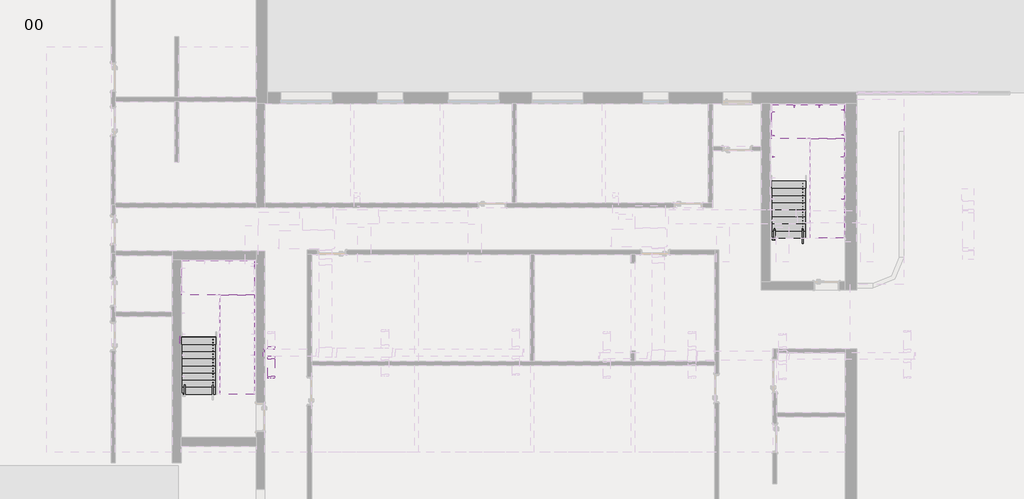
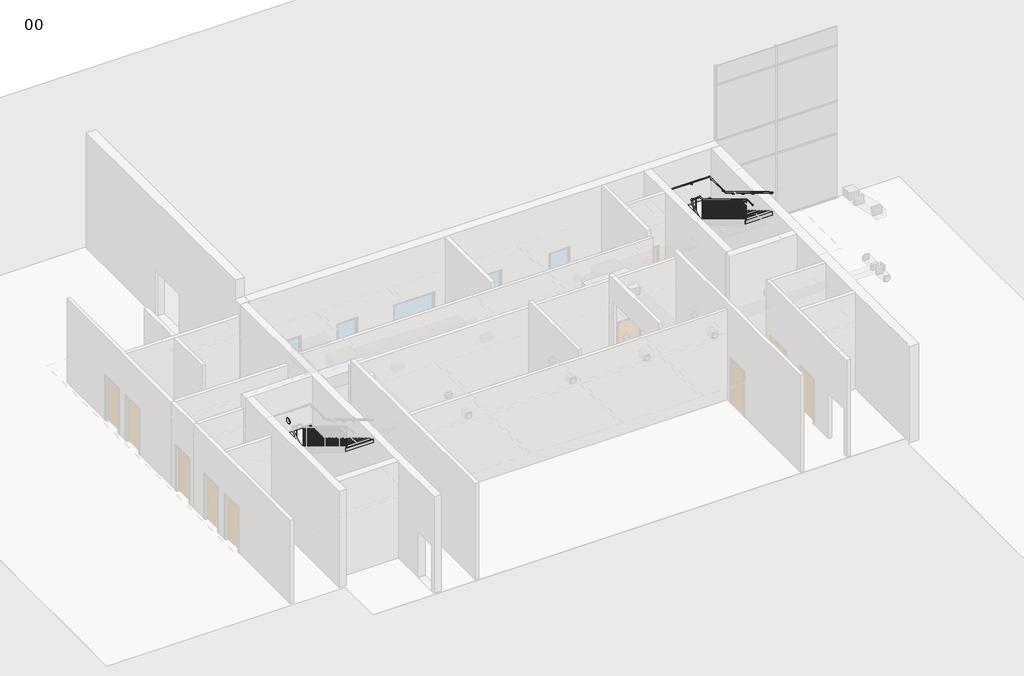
# One storey, part 10 of 12: 10 proxies, 5 duct fittings, 4 stair flights, 2 railings, 2 slabs, 1 duct segment.
"""IFC4 building model written with IfcOpenShell, lengths in millimetres."""

from ifc_helpers import new_model, si_unit, frame, origin, place, context, project, spatial, polyline, circle_curve, ellipse_curve, outline, extrude, transform, mapped, element, save
from ifc_brep_helpers import plane_surface, cylinder_surface, advanced_brep
from components import support_circular_support_bend_943144f1, m_rectangular_duct_endcap_standard_ffc747e0, m_rectangular_duct_takeoff_standard_e76cbc94, m_rectangular_duct_takeoff_standard_1d6a8af3, m_rectangular_to_round_duct_transition_angle_45_degree_26f3b062, m_round_duct_transition_angle_45_degree_5235cf4d, slab_b5527e81, slab_eed05af2, stair_flight_633f8e3b, stair_flight_4ffd47d7, stair_flight_bc6c97eb, stair_flight_164fe082

model = new_model("IFC4")

# Units and contexts
model_context = context("Model", 3, world=origin())
ifc_project = project(units=[si_unit("LENGTHUNIT", "METRE", prefix="MILLI")], contexts=[model_context])

# Site, building, storey
site = spatial("IfcSite", under=ifc_project)
building = spatial("IfcBuilding", under=site)
storey = spatial("IfcBuildingStorey", under=building, Name="00", Elevation=0.0)

# Proxies
placement = place(None, origin())
support_circular_support_bend_shape = support_circular_support_bend_943144f1(model_context)
element("IfcBuildingElementProxy", 1, Name="Support_ Circular : Support_Bend", ObjectType="Support_ Circular : Support_Bend", at=placement, inside=storey, context=model_context, shape_type="MappedRepresentation", body=[
    mapped(support_circular_support_bend_shape, transform((443252.7206883, -383415.7141444, 2725.5730965), x_axis=(0.0, 1.0, 0.0), y_axis=(-1.0, 0.0, 0.0), z_axis=(0.0, 0.0, 1.0))),
])
element("IfcBuildingElementProxy", 2, Name="Support_ Circular : Support_Bend", ObjectType="Support_ Circular : Support_Bend", at=placement, inside=storey, context=model_context, shape_type="MappedRepresentation", body=[
    mapped(support_circular_support_bend_shape, transform((443252.7206883, -382670.8797684, 3172.4737221), x_axis=(0.0, 1.0, 0.0), y_axis=(-1.0, 0.0, 0.0), z_axis=(0.0, 0.0, 1.0))),
])
element("IfcBuildingElementProxy", 3, Name="Support_ Circular : Support_Bend", ObjectType="Support_ Circular : Support_Bend", at=placement, inside=storey, context=model_context, shape_type="MappedRepresentation", body=[
    mapped(support_circular_support_bend_shape, transform((443252.7206883, -381840.353659, 3310.0), x_axis=(0.0, 1.0, 0.0), y_axis=(-1.0, 0.0, 0.0), z_axis=(0.0, 0.0, 1.0))),
])
element("IfcBuildingElementProxy", 4, Name="Support_ Circular : Support_Bend", ObjectType="Support_ Circular : Support_Bend", at=placement, inside=storey, context=model_context, shape_type="MappedRepresentation", body=[
    mapped(support_circular_support_bend_shape, transform((443961.3883511, -381680.4026386, 3310.0), x_axis=(1.0, 0.0, 0.0), y_axis=(0.0, 1.0, 0.0), z_axis=(0.0, 0.0, 1.0))),
])
element("IfcBuildingElementProxy", 5, Name="Support_ Circular : Support_Bend", ObjectType="Support_ Circular : Support_Bend", at=placement, inside=storey, context=model_context, shape_type="MappedRepresentation", body=[
    mapped(support_circular_support_bend_shape, transform((444830.0070343, -381680.4026386, 3310.0), x_axis=(1.0, 0.0, 0.0), y_axis=(0.0, 1.0, 0.0), z_axis=(0.0, 0.0, 1.0))),
])
element("IfcBuildingElementProxy", 6, Name="Support_ Circular : Support_Bend", ObjectType="Support_ Circular : Support_Bend", at=placement, inside=storey, context=model_context, shape_type="MappedRepresentation", body=[
    mapped(support_circular_support_bend_shape, transform((445607.9206883, -381771.1076677, 3310.0), x_axis=(0.0, -1.0, 0.0), y_axis=(1.0, 0.0, 0.0), z_axis=(0.0, 0.0, 1.0))),
])
element("IfcBuildingElementProxy", 7, Name="Support_ Circular : Support_Bend", ObjectType="Support_ Circular : Support_Bend", at=placement, inside=storey, context=model_context, shape_type="MappedRepresentation", body=[
    mapped(support_circular_support_bend_shape, transform((445607.9206883, -382639.7263509, 3310.0), x_axis=(0.0, -1.0, 0.0), y_axis=(1.0, 0.0, 0.0), z_axis=(0.0, 0.0, 1.0))),
])
element("IfcBuildingElementProxy", 8, Name="Support_ Circular : Support_Bend", ObjectType="Support_ Circular : Support_Bend", at=placement, inside=storey, context=model_context, shape_type="MappedRepresentation", body=[
    mapped(support_circular_support_bend_shape, transform((445607.9206883, -383415.7141444, 3644.4269035), x_axis=(0.0, -1.0, 0.0), y_axis=(1.0, 0.0, 0.0), z_axis=(0.0, 0.0, 1.0))),
])
element("IfcBuildingElementProxy", 9, Name="Support_ Circular : Support_Bend", ObjectType="Support_ Circular : Support_Bend", at=placement, inside=storey, context=model_context, shape_type="MappedRepresentation", body=[
    mapped(support_circular_support_bend_shape, transform((445607.9206883, -384160.5485203, 4091.327529), x_axis=(0.0, -1.0, 0.0), y_axis=(1.0, 0.0, 0.0), z_axis=(0.0, 0.0, 1.0))),
])
element("IfcBuildingElementProxy", 10, Name="Support_ Circular : Support_Bend", ObjectType="Support_ Circular : Support_Bend", at=placement, inside=storey, context=model_context, shape_type="MappedRepresentation", body=[
    mapped(support_circular_support_bend_shape, transform((445607.9206883, -384905.3828963, 4538.2281546), x_axis=(0.0, -1.0, 0.0), y_axis=(1.0, 0.0, 0.0), z_axis=(0.0, 0.0, 1.0))),
])

# Duct fittings
m_rectangular_duct_endcap_standard_shape = m_rectangular_duct_endcap_standard_ffc747e0(model_context)
element("IfcDuctFitting", 11, ObjectType="M_Rectangular Duct Endcap : Standard", at=placement, inside=storey, context=model_context, shape_type="MappedRepresentation", body=[
    mapped(m_rectangular_duct_endcap_standard_shape, transform((425299.0152402, -390313.0198881, 3547.5296249), x_axis=(-1.0, 0.0, 0.0), y_axis=(0.0, -1.0, 0.0), z_axis=(0.0, 0.0, 1.0))),
])
m_rectangular_duct_takeoff_standard_shape = m_rectangular_duct_takeoff_standard_e76cbc94(model_context)
element("IfcDuctFitting", 12, ObjectType="M_Rectangular Duct Takeoff : Standard", at=placement, inside=storey, context=model_context, shape_type="MappedRepresentation", body=[
    mapped(m_rectangular_duct_takeoff_standard_shape, transform((425549.0152402, -390188.0198881, 3672.5296249), x_axis=(0.0, 1.0, 0.0), y_axis=(1.0, 0.0, 0.0), z_axis=(0.0, 0.0, -1.0))),
])
m_rectangular_duct_takeoff_standard_2_shape = m_rectangular_duct_takeoff_standard_1d6a8af3(model_context)
element("IfcDuctFitting", 13, ObjectType="M_Rectangular Duct Takeoff : Standard", at=placement, inside=storey, context=model_context, shape_type="MappedRepresentation", body=[
    mapped(m_rectangular_duct_takeoff_standard_2_shape, transform((425549.0152402, -390438.0198881, 3672.5296249), x_axis=(0.0, -1.0, 0.0), y_axis=(-1.0, 0.0, 0.0), z_axis=(0.0, 0.0, -1.0))),
])
m_rectangular_to_round_duct_transition_angle_45_degree_shape = m_rectangular_to_round_duct_transition_angle_45_degree_26f3b062(model_context)
element("IfcDuctFitting", 14, ObjectType="M_Rectangular to Round Duct Transition - Angle : 45 Degree", at=placement, inside=storey, context=model_context, shape_type="MappedRepresentation", body=[
    mapped(m_rectangular_to_round_duct_transition_angle_45_degree_shape, transform((425549.0152402, -391151.0575595, 3672.5296249), x_axis=(0.0, -1.0, 0.0), y_axis=(-1.0, 0.0, 0.0), z_axis=(0.0, 0.0, -1.0))),
])
m_round_duct_transition_angle_45_degree_shape = m_round_duct_transition_angle_45_degree_5235cf4d(model_context)
element("IfcDuctFitting", 15, ObjectType="M_Round Duct Transition - Angle : 45 Degree", at=placement, inside=storey, context=model_context, shape_type="MappedRepresentation", body=[
    mapped(m_round_duct_transition_angle_45_degree_shape, transform((422321.0230373, -389857.6171549, 5063.0), x_axis=(1.0, 0.0, 0.0), y_axis=(0.0, 1.0, 0.0), z_axis=(0.0, 0.0, 1.0))),
])

# Duct segment
element("IfcDuctSegment", 16, ObjectType="Mitered Elbows / Taps", at=placement, inside=storey, context=model_context, shape_type="SweptSolid", body=[
    extrude(outline(polyline([(425674.0152402, -391151.0575595), (425424.0152402, -391151.0575595), (425424.0152402, -390539.6198881), (425674.0152402, -390539.6198881), (425674.0152402, -391151.0575595)])), frame((0.0, 0.0, 3547.5296249), z_axis=(0.0, 0.0, 1.0), x_axis=(1.0, 0.0, 0.0)), (0.0, 0.0, 1.0), 250.0),
])

# Railings
element("IfcRailing", 17, ObjectType="Concept_900-1100mm_RailStop_Baluster", at=placement, inside=storey, context=model_context, shape_type="SolidModel", body=[
    advanced_brep(
    [(444261.9206883, -386470.0026386, 1030.0), (444221.9206883, -386470.0026386, 1030.0), (444261.9206883, -386269.4629593, 1030.0), (444221.9206883, -386269.4629593, 1030.0), (444261.9206883, -382729.6026386, 3153.9161924), (444221.9206883, -382729.6026386, 3153.9161924), (444261.9206883, -382729.6026386, 3330.0), (444221.9206883, -382729.6026386, 3330.0), (444261.9206883, -382689.6026386, 3330.0), (444221.9206883, -382649.6026386, 3330.0), (444321.9206883, -382689.6026386, 3330.0), (444321.9206883, -382649.6026386, 3330.0), (444598.7206883, -382689.6026386, 3330.0), (444638.7206883, -382649.6026386, 3330.0), (444598.7206883, -382863.8756512, 3330.0), (444638.7206883, -382863.8756512, 3330.0), (444598.7206883, -386280.5423179, 5380.0), (444638.7206883, -386280.5423179, 5380.0), (444598.7206883, -386670.0026386, 5380.0), (444638.7206883, -386670.0026386, 5380.0)],
    [
        (0, 1, circle_curve(frame((444241.9206883, -386470.0026386, 1030.0), z_axis=(0.0, -1.0, 0.0), x_axis=(-1.0, 0.0, 0.0)), 20.0)),
        (1, 0, circle_curve(frame((444241.9206883, -386470.0026386, 1030.0), z_axis=(0.0, -1.0, 0.0), x_axis=(-1.0, 0.0, 0.0)), 20.0)),
        (0, 2),
        (2, 3, ellipse_curve(frame((444241.9206883, -386269.4629593, 1030.0), z_axis=(0.0, -0.9637149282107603, -0.26693358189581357), x_axis=(0.0, -0.26693358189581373, 0.9637149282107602)), 20.753025, 20.0)),
        (3, 1),
        (3, 2, ellipse_curve(frame((444241.9206883, -386269.4629593, 1030.0), z_axis=(0.0, -0.9637149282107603, -0.26693358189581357), x_axis=(0.0, -0.26693358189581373, 0.9637149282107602)), 20.753025, 20.0)),
        (2, 4),
        (4, 5, ellipse_curve(frame((444241.9206883, -382729.6026386, 3153.9161924), z_axis=(0.0, -0.49269881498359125, -0.8701999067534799), x_axis=(0.0, -0.8701999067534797, 0.4926988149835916)), 22.9832247, 20.0)),
        (5, 3),
        (5, 4, ellipse_curve(frame((444241.9206883, -382729.6026386, 3153.9161924), z_axis=(0.0, -0.49269881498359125, -0.8701999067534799), x_axis=(0.0, -0.8701999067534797, 0.4926988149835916)), 22.9832247, 20.0)),
        (4, 6),
        (6, 7, ellipse_curve(frame((444241.9206883, -382729.6026386, 3330.0), z_axis=(0.0, -0.7071067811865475, -0.7071067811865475), x_axis=(0.0, 0.7071067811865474, -0.7071067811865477)), 28.2842712, 20.0)),
        (7, 5),
        (7, 6, ellipse_curve(frame((444241.9206883, -382729.6026386, 3330.0), z_axis=(0.0, -0.7071067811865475, -0.7071067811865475), x_axis=(0.0, 0.7071067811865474, -0.7071067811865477)), 28.2842712, 20.0)),
        (6, 8),
        (8, 9, ellipse_curve(frame((444241.9206883, -382669.6026386, 3330.0), z_axis=(-0.7071067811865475, -0.7071067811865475, 0.0), x_axis=(0.7071067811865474, -0.7071067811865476, 0.0)), 28.2842712, 20.0)),
        (9, 7),
        (9, 8, ellipse_curve(frame((444241.9206883, -382669.6026386, 3330.0), z_axis=(-0.7071067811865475, -0.7071067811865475, 0.0), x_axis=(0.7071067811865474, -0.7071067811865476, 0.0)), 28.2842712, 20.0)),
        (8, 10),
        (10, 11, circle_curve(frame((444321.9206883, -382669.6026386, 3330.0), z_axis=(-1.0, 0.0, 0.0), x_axis=(0.0, 1.0, 0.0)), 20.0)),
        (11, 9),
        (11, 10, circle_curve(frame((444321.9206883, -382669.6026386, 3330.0), z_axis=(-1.0, 0.0, 0.0), x_axis=(0.0, 1.0, 0.0)), 20.0)),
        (10, 12),
        (12, 13, ellipse_curve(frame((444618.7206883, -382669.6026386, 3330.0), z_axis=(-0.7071067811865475, 0.7071067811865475, 0.0), x_axis=(-0.7071067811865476, -0.7071067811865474, 0.0)), 28.2842712, 20.0)),
        (13, 11),
        (13, 12, ellipse_curve(frame((444618.7206883, -382669.6026386, 3330.0), z_axis=(-0.7071067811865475, 0.7071067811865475, 0.0), x_axis=(-0.7071067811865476, -0.7071067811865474, 0.0)), 28.2842712, 20.0)),
        (12, 14),
        (14, 15, ellipse_curve(frame((444618.7206883, -382863.8756512, 3330.0), z_axis=(0.0, 0.9637149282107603, -0.2669335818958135), x_axis=(0.0, 0.26693358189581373, 0.9637149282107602)), 20.753025, 20.0)),
        (15, 13),
        (15, 14, ellipse_curve(frame((444618.7206883, -382863.8756512, 3330.0), z_axis=(0.0, 0.9637149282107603, -0.2669335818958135), x_axis=(0.0, 0.26693358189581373, 0.9637149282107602)), 20.753025, 20.0)),
        (14, 16),
        (16, 17, ellipse_curve(frame((444618.7206883, -386280.5423179, 5380.0), z_axis=(0.0, 0.9637149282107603, -0.2669335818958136), x_axis=(0.0, -0.26693358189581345, -0.9637149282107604)), 20.753025, 20.0)),
        (17, 15),
        (17, 16, ellipse_curve(frame((444618.7206883, -386280.5423179, 5380.0), z_axis=(0.0, 0.9637149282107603, -0.2669335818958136), x_axis=(0.0, -0.26693358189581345, -0.9637149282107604)), 20.753025, 20.0)),
        (18, 19, circle_curve(frame((444618.7206883, -386670.0026386, 5380.0), z_axis=(0.0, -1.0, 0.0), x_axis=(1.0, 0.0, 0.0)), 20.0)),
        (19, 18, circle_curve(frame((444618.7206883, -386670.0026386, 5380.0), z_axis=(0.0, -1.0, 0.0), x_axis=(1.0, 0.0, 0.0)), 20.0)),
        (16, 18),
        (19, 17),
    ],
    [
        plane_surface(frame((444241.9206883, -386470.0026386, 1050.0), z_axis=(0.0, -1.0, 0.0), x_axis=(0.0, 0.0, 1.0))),
        cylinder_surface(frame((444241.9206883, -386470.0026386, 1030.0), z_axis=(0.0, -1.0, 0.0), x_axis=(-1.0, 0.0, 0.0)), 20.0),
        cylinder_surface(frame((444241.9206883, -386264.7127235, 1032.8501415), z_axis=(0.0, -0.857492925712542, -0.5144957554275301), x_axis=(-1.0, 0.0, 0.0)), 20.0),
        cylinder_surface(frame((444241.9206883, -382729.6026386, 3165.24), z_axis=(0.0, 0.0, -1.0), x_axis=(-1.0, 0.0, 0.0)), 20.0),
        cylinder_surface(frame((444241.9206883, -382749.6026386, 3330.0), z_axis=(0.0, -1.0, 0.0), x_axis=(-1.0, 0.0, 0.0)), 20.0),
        cylinder_surface(frame((444241.9206883, -382669.6026386, 3330.0), z_axis=(-1.0, 0.0, 0.0), x_axis=(0.0, 1.0, 0.0)), 20.0),
        cylinder_surface(frame((444321.9206883, -382669.6026386, 3330.0), z_axis=(-1.0, 0.0, 0.0), x_axis=(0.0, 1.0, 0.0)), 20.0),
        cylinder_surface(frame((444618.7206883, -382669.6026386, 3330.0), z_axis=(0.0, 1.0, 0.0), x_axis=(1.0, 0.0, 0.0)), 20.0),
        cylinder_surface(frame((444618.7206883, -382868.6258871, 3332.8501415), z_axis=(0.0, 0.857492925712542, -0.5144957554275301), x_axis=(1.0, 0.0, 0.0)), 20.0),
        plane_surface(frame((444618.7206883, -386670.0026386, 5400.0), z_axis=(0.0, -1.0, 0.0), x_axis=(0.0, 0.0, -1.0))),
        cylinder_surface(frame((444618.7206883, -386275.0026386, 5380.0), z_axis=(0.0, 1.0, 0.0), x_axis=(1.0, 0.0, 0.0)), 20.0),
    ],
    [
        (0, [[1, 2]]),
        (1, [[-1, 3, 4, 5]]),
        (1, [[-2, -5, 6, -3]]),
        (2, [[-4, 7, 8, 9]]),
        (2, [[-6, -9, 10, -7]]),
        (3, [[-8, 11, 12, 13]]),
        (3, [[-10, -13, 14, -11]]),
        (4, [[-12, 15, 16, 17]]),
        (4, [[-14, -17, 18, -15]]),
        (5, [[-16, 19, 20, 21]]),
        (5, [[-18, -21, 22, -19]]),
        (6, [[-20, 23, 24, 25]]),
        (6, [[-22, -25, 26, -23]]),
        (7, [[-24, 27, 28, 29]]),
        (7, [[-26, -29, 30, -27]]),
        (8, [[-28, 31, 32, 33]]),
        (8, [[-30, -33, 34, -31]]),
        (9, [[35, 36]]),
        (10, [[-32, 37, -36, 38]]),
        (10, [[-34, -38, -35, -37]]),
    ],
),
    extrude(outline(polyline([(-386169.2769243, 5289.9169563), (-386169.2769243, 4350.0), (-386179.2769243, 4350.0), (-386179.2769243, 5295.9169563), (-386169.2769243, 5289.9169563)])), frame((444613.7206883, 0.0, 0.0), z_axis=(1.0, 0.0, 0.0), x_axis=(0.0, 1.0, 0.0)), (0.0, 0.0, 1.0), 10.0),
    extrude(outline(polyline([(-386068.55121, 5229.4815277), (-386068.55121, 4350.0), (-386078.55121, 4350.0), (-386078.55121, 5235.4815277), (-386068.55121, 5229.4815277)])), frame((444613.7206883, 0.0, 0.0), z_axis=(1.0, 0.0, 0.0), x_axis=(0.0, 1.0, 0.0)), (0.0, 0.0, 1.0), 10.0),
    extrude(outline(polyline([(-385967.8254958, 5169.0460991), (-385967.8254958, 4200.0), (-385977.8254958, 4200.0), (-385977.8254958, 5175.0460991), (-385967.8254958, 5169.0460991)])), frame((444613.7206883, 0.0, 0.0), z_axis=(1.0, 0.0, 0.0), x_axis=(0.0, 1.0, 0.0)), (0.0, 0.0, 1.0), 10.0),
    extrude(outline(polyline([(-385867.0997815, 5108.6106706), (-385867.0997815, 4200.0), (-385877.0997815, 4200.0), (-385877.0997815, 5114.6106706), (-385867.0997815, 5108.6106706)])), frame((444613.7206883, 0.0, 0.0), z_axis=(1.0, 0.0, 0.0), x_axis=(0.0, 1.0, 0.0)), (0.0, 0.0, 1.0), 10.0),
    extrude(outline(polyline([(-385766.3740672, 5048.175242), (-385766.3740672, 4050.0), (-385776.3740672, 4050.0), (-385776.3740672, 5054.175242), (-385766.3740672, 5048.175242)])), frame((444613.7206883, 0.0, 0.0), z_axis=(1.0, 0.0, 0.0), x_axis=(0.0, 1.0, 0.0)), (0.0, 0.0, 1.0), 10.0),
    extrude(outline(polyline([(-385665.6483529, 4987.7398134), (-385665.6483529, 4050.0), (-385675.6483529, 4050.0), (-385675.6483529, 4993.7398134), (-385665.6483529, 4987.7398134)])), frame((444613.7206883, 0.0, 0.0), z_axis=(1.0, 0.0, 0.0), x_axis=(0.0, 1.0, 0.0)), (0.0, 0.0, 1.0), 10.0),
    extrude(outline(polyline([(-385564.9226386, 4927.3043848), (-385564.9226386, 4050.0), (-385574.9226386, 4050.0), (-385574.9226386, 4933.3043848), (-385564.9226386, 4927.3043848)])), frame((444613.7206883, 0.0, 0.0), z_axis=(1.0, 0.0, 0.0), x_axis=(0.0, 1.0, 0.0)), (0.0, 0.0, 1.0), 10.0),
    extrude(outline(polyline([(-385464.1969243, 4866.8689563), (-385464.1969243, 3900.0), (-385474.1969243, 3900.0), (-385474.1969243, 4872.8689563), (-385464.1969243, 4866.8689563)])), frame((444613.7206883, 0.0, 0.0), z_axis=(1.0, 0.0, 0.0), x_axis=(0.0, 1.0, 0.0)), (0.0, 0.0, 1.0), 10.0),
    extrude(outline(polyline([(-385363.47121, 4806.4335277), (-385363.47121, 3900.0), (-385373.47121, 3900.0), (-385373.47121, 4812.4335277), (-385363.47121, 4806.4335277)])), frame((444613.7206883, 0.0, 0.0), z_axis=(1.0, 0.0, 0.0), x_axis=(0.0, 1.0, 0.0)), (0.0, 0.0, 1.0), 10.0),
    extrude(outline(polyline([(-385262.7454958, 4745.9980991), (-385262.7454958, 3750.0), (-385272.7454958, 3750.0), (-385272.7454958, 4751.9980991), (-385262.7454958, 4745.9980991)])), frame((444613.7206883, 0.0, 0.0), z_axis=(1.0, 0.0, 0.0), x_axis=(0.0, 1.0, 0.0)), (0.0, 0.0, 1.0), 10.0),
    extrude(outline(polyline([(-385162.0197815, 4685.5626706), (-385162.0197815, 3750.0), (-385172.0197815, 3750.0), (-385172.0197815, 4691.5626706), (-385162.0197815, 4685.5626706)])), frame((444613.7206883, 0.0, 0.0), z_axis=(1.0, 0.0, 0.0), x_axis=(0.0, 1.0, 0.0)), (0.0, 0.0, 1.0), 10.0),
    extrude(outline(polyline([(-385061.2940672, 4625.127242), (-385061.2940672, 3750.0), (-385071.2940672, 3750.0), (-385071.2940672, 4631.127242), (-385061.2940672, 4625.127242)])), frame((444613.7206883, 0.0, 0.0), z_axis=(1.0, 0.0, 0.0), x_axis=(0.0, 1.0, 0.0)), (0.0, 0.0, 1.0), 10.0),
    extrude(outline(polyline([(-384960.5683529, 4564.6918134), (-384960.5683529, 3600.0), (-384970.5683529, 3600.0), (-384970.5683529, 4570.6918134), (-384960.5683529, 4564.6918134)])), frame((444613.7206883, 0.0, 0.0), z_axis=(1.0, 0.0, 0.0), x_axis=(0.0, 1.0, 0.0)), (0.0, 0.0, 1.0), 10.0),
    extrude(outline(polyline([(-384859.8426386, 4504.2563848), (-384859.8426386, 3600.0), (-384869.8426386, 3600.0), (-384869.8426386, 4510.2563848), (-384859.8426386, 4504.2563848)])), frame((444613.7206883, 0.0, 0.0), z_axis=(1.0, 0.0, 0.0), x_axis=(0.0, 1.0, 0.0)), (0.0, 0.0, 1.0), 10.0),
    extrude(outline(polyline([(-384759.1169243, 4443.8209563), (-384759.1169243, 3450.0), (-384769.1169243, 3450.0), (-384769.1169243, 4449.8209563), (-384759.1169243, 4443.8209563)])), frame((444613.7206883, 0.0, 0.0), z_axis=(1.0, 0.0, 0.0), x_axis=(0.0, 1.0, 0.0)), (0.0, 0.0, 1.0), 10.0),
    extrude(outline(polyline([(-384658.39121, 4383.3855277), (-384658.39121, 3450.0), (-384668.39121, 3450.0), (-384668.39121, 4389.3855277), (-384658.39121, 4383.3855277)])), frame((444613.7206883, 0.0, 0.0), z_axis=(1.0, 0.0, 0.0), x_axis=(0.0, 1.0, 0.0)), (0.0, 0.0, 1.0), 10.0),
    extrude(outline(polyline([(-384557.6654958, 4322.9500991), (-384557.6654958, 3450.0), (-384567.6654958, 3450.0), (-384567.6654958, 4328.9500991), (-384557.6654958, 4322.9500991)])), frame((444613.7206883, 0.0, 0.0), z_axis=(1.0, 0.0, 0.0), x_axis=(0.0, 1.0, 0.0)), (0.0, 0.0, 1.0), 10.0),
    extrude(outline(polyline([(-384456.9397815, 4262.5146706), (-384456.9397815, 3300.0), (-384466.9397815, 3300.0), (-384466.9397815, 4268.5146706), (-384456.9397815, 4262.5146706)])), frame((444613.7206883, 0.0, 0.0), z_axis=(1.0, 0.0, 0.0), x_axis=(0.0, 1.0, 0.0)), (0.0, 0.0, 1.0), 10.0),
    extrude(outline(polyline([(-384356.2140672, 4202.079242), (-384356.2140672, 3300.0), (-384366.2140672, 3300.0), (-384366.2140672, 4208.079242), (-384356.2140672, 4202.079242)])), frame((444613.7206883, 0.0, 0.0), z_axis=(1.0, 0.0, 0.0), x_axis=(0.0, 1.0, 0.0)), (0.0, 0.0, 1.0), 10.0),
    extrude(outline(polyline([(-384255.4883529, 4141.6438134), (-384255.4883529, 3150.0), (-384265.4883529, 3150.0), (-384265.4883529, 4147.6438134), (-384255.4883529, 4141.6438134)])), frame((444613.7206883, 0.0, 0.0), z_axis=(1.0, 0.0, 0.0), x_axis=(0.0, 1.0, 0.0)), (0.0, 0.0, 1.0), 10.0),
    extrude(outline(polyline([(-384154.7626386, 4081.2083848), (-384154.7626386, 3150.0), (-384164.7626386, 3150.0), (-384164.7626386, 4087.2083848), (-384154.7626386, 4081.2083848)])), frame((444613.7206883, 0.0, 0.0), z_axis=(1.0, 0.0, 0.0), x_axis=(0.0, 1.0, 0.0)), (0.0, 0.0, 1.0), 10.0),
    extrude(outline(polyline([(-384054.0369243, 4020.7729563), (-384054.0369243, 3150.0), (-384064.0369243, 3150.0), (-384064.0369243, 4026.7729563), (-384054.0369243, 4020.7729563)])), frame((444613.7206883, 0.0, 0.0), z_axis=(1.0, 0.0, 0.0), x_axis=(0.0, 1.0, 0.0)), (0.0, 0.0, 1.0), 10.0),
    extrude(outline(polyline([(-383953.31121, 3960.3375277), (-383953.31121, 3000.0), (-383963.31121, 3000.0), (-383963.31121, 3966.3375277), (-383953.31121, 3960.3375277)])), frame((444613.7206883, 0.0, 0.0), z_axis=(1.0, 0.0, 0.0), x_axis=(0.0, 1.0, 0.0)), (0.0, 0.0, 1.0), 10.0),
    extrude(outline(polyline([(-383852.5854958, 3899.9020991), (-383852.5854958, 3000.0), (-383862.5854958, 3000.0), (-383862.5854958, 3905.9020991), (-383852.5854958, 3899.9020991)])), frame((444613.7206883, 0.0, 0.0), z_axis=(1.0, 0.0, 0.0), x_axis=(0.0, 1.0, 0.0)), (0.0, 0.0, 1.0), 10.0),
    extrude(outline(polyline([(-383751.8597815, 3839.4666706), (-383751.8597815, 2850.0), (-383761.8597815, 2850.0), (-383761.8597815, 3845.4666706), (-383751.8597815, 3839.4666706)])), frame((444613.7206883, 0.0, 0.0), z_axis=(1.0, 0.0, 0.0), x_axis=(0.0, 1.0, 0.0)), (0.0, 0.0, 1.0), 10.0),
    extrude(outline(polyline([(-383651.1340672, 3779.031242), (-383651.1340672, 2850.0), (-383661.1340672, 2850.0), (-383661.1340672, 3785.031242), (-383651.1340672, 3779.031242)])), frame((444613.7206883, 0.0, 0.0), z_axis=(1.0, 0.0, 0.0), x_axis=(0.0, 1.0, 0.0)), (0.0, 0.0, 1.0), 10.0),
    extrude(outline(polyline([(-383550.4083529, 3718.5958134), (-383550.4083529, 2850.0), (-383560.4083529, 2850.0), (-383560.4083529, 3724.5958134), (-383550.4083529, 3718.5958134)])), frame((444613.7206883, 0.0, 0.0), z_axis=(1.0, 0.0, 0.0), x_axis=(0.0, 1.0, 0.0)), (0.0, 0.0, 1.0), 10.0),
    extrude(outline(polyline([(-383449.6826386, 3658.1603848), (-383449.6826386, 2700.0), (-383459.6826386, 2700.0), (-383459.6826386, 3664.1603848), (-383449.6826386, 3658.1603848)])), frame((444613.7206883, 0.0, 0.0), z_axis=(1.0, 0.0, 0.0), x_axis=(0.0, 1.0, 0.0)), (0.0, 0.0, 1.0), 10.0),
    extrude(outline(polyline([(-383348.9569243, 3597.7249563), (-383348.9569243, 2700.0), (-383358.9569243, 2700.0), (-383358.9569243, 3603.7249563), (-383348.9569243, 3597.7249563)])), frame((444613.7206883, 0.0, 0.0), z_axis=(1.0, 0.0, 0.0), x_axis=(0.0, 1.0, 0.0)), (0.0, 0.0, 1.0), 10.0),
    extrude(outline(polyline([(-383248.23121, 3537.2895277), (-383248.23121, 2550.0), (-383258.23121, 2550.0), (-383258.23121, 3543.2895277), (-383248.23121, 3537.2895277)])), frame((444613.7206883, 0.0, 0.0), z_axis=(1.0, 0.0, 0.0), x_axis=(0.0, 1.0, 0.0)), (0.0, 0.0, 1.0), 10.0),
    extrude(outline(polyline([(-383147.5054958, 3476.8540991), (-383147.5054958, 2550.0), (-383157.5054958, 2550.0), (-383157.5054958, 3482.8540991), (-383147.5054958, 3476.8540991)])), frame((444613.7206883, 0.0, 0.0), z_axis=(1.0, 0.0, 0.0), x_axis=(0.0, 1.0, 0.0)), (0.0, 0.0, 1.0), 10.0),
    extrude(outline(polyline([(-383046.7797815, 3416.4186706), (-383046.7797815, 2550.0), (-383056.7797815, 2550.0), (-383056.7797815, 3422.4186706), (-383046.7797815, 3416.4186706)])), frame((444613.7206883, 0.0, 0.0), z_axis=(1.0, 0.0, 0.0), x_axis=(0.0, 1.0, 0.0)), (0.0, 0.0, 1.0), 10.0),
    extrude(outline(polyline([(-382946.0540672, 3355.983242), (-382946.0540672, 2400.0), (-382956.0540672, 2400.0), (-382956.0540672, 3361.983242), (-382946.0540672, 3355.983242)])), frame((444613.7206883, 0.0, 0.0), z_axis=(1.0, 0.0, 0.0), x_axis=(0.0, 1.0, 0.0)), (0.0, 0.0, 1.0), 10.0),
    extrude(outline(polyline([(444613.7206883, -382845.3283529), (444623.7206883, -382845.3283529), (444623.7206883, -382855.3283529), (444613.7206883, -382855.3283529), (444613.7206883, -382845.3283529)])), frame((0.0, 0.0, 2400.0), z_axis=(0.0, 0.0, 1.0), x_axis=(1.0, 0.0, 0.0)), (0.0, 0.0, 1.0), 910.0),
    extrude(outline(polyline([(444425.3206883, -382674.6026386), (444425.3206883, -382664.6026386), (444435.3206883, -382664.6026386), (444435.3206883, -382674.6026386), (444425.3206883, -382674.6026386)])), frame((0.0, 0.0, 2250.0), z_axis=(0.0, 0.0, 1.0), x_axis=(1.0, 0.0, 0.0)), (0.0, 0.0, 1.0), 1060.0),
    extrude(outline(polyline([(-382855.3283529, 2100.0), (-382855.3283529, 3055.1569563), (-382845.3283529, 3061.1569563), (-382845.3283529, 2100.0), (-382855.3283529, 2100.0)])), frame((444236.9206883, 0.0, 0.0), z_axis=(1.0, 0.0, 0.0), x_axis=(0.0, 1.0, 0.0)), (0.0, 0.0, 1.0), 10.0),
    extrude(outline(polyline([(-382956.0540672, 2100.0), (-382956.0540672, 2994.7215277), (-382946.0540672, 3000.7215277), (-382946.0540672, 2100.0), (-382956.0540672, 2100.0)])), frame((444236.9206883, 0.0, 0.0), z_axis=(1.0, 0.0, 0.0), x_axis=(0.0, 1.0, 0.0)), (0.0, 0.0, 1.0), 10.0),
    extrude(outline(polyline([(-383056.7797815, 1950.0), (-383056.7797815, 2934.2860991), (-383046.7797815, 2940.2860991), (-383046.7797815, 1950.0), (-383056.7797815, 1950.0)])), frame((444236.9206883, 0.0, 0.0), z_axis=(1.0, 0.0, 0.0), x_axis=(0.0, 1.0, 0.0)), (0.0, 0.0, 1.0), 10.0),
    extrude(outline(polyline([(-383157.5054958, 1950.0), (-383157.5054958, 2873.8506706), (-383147.5054958, 2879.8506706), (-383147.5054958, 1950.0), (-383157.5054958, 1950.0)])), frame((444236.9206883, 0.0, 0.0), z_axis=(1.0, 0.0, 0.0), x_axis=(0.0, 1.0, 0.0)), (0.0, 0.0, 1.0), 10.0),
    extrude(outline(polyline([(-383258.23121, 1950.0), (-383258.23121, 2813.415242), (-383248.23121, 2819.415242), (-383248.23121, 1950.0), (-383258.23121, 1950.0)])), frame((444236.9206883, 0.0, 0.0), z_axis=(1.0, 0.0, 0.0), x_axis=(0.0, 1.0, 0.0)), (0.0, 0.0, 1.0), 10.0),
    extrude(outline(polyline([(-383358.9569243, 1800.0), (-383358.9569243, 2752.9798134), (-383348.9569243, 2758.9798134), (-383348.9569243, 1800.0), (-383358.9569243, 1800.0)])), frame((444236.9206883, 0.0, 0.0), z_axis=(1.0, 0.0, 0.0), x_axis=(0.0, 1.0, 0.0)), (0.0, 0.0, 1.0), 10.0),
    extrude(outline(polyline([(-383459.6826386, 1800.0), (-383459.6826386, 2692.5443848), (-383449.6826386, 2698.5443848), (-383449.6826386, 1800.0), (-383459.6826386, 1800.0)])), frame((444236.9206883, 0.0, 0.0), z_axis=(1.0, 0.0, 0.0), x_axis=(0.0, 1.0, 0.0)), (0.0, 0.0, 1.0), 10.0),
    extrude(outline(polyline([(-383560.4083529, 1650.0), (-383560.4083529, 2632.1089563), (-383550.4083529, 2638.1089563), (-383550.4083529, 1650.0), (-383560.4083529, 1650.0)])), frame((444236.9206883, 0.0, 0.0), z_axis=(1.0, 0.0, 0.0), x_axis=(0.0, 1.0, 0.0)), (0.0, 0.0, 1.0), 10.0),
    extrude(outline(polyline([(-383661.1340672, 1650.0), (-383661.1340672, 2571.6735277), (-383651.1340672, 2577.6735277), (-383651.1340672, 1650.0), (-383661.1340672, 1650.0)])), frame((444236.9206883, 0.0, 0.0), z_axis=(1.0, 0.0, 0.0), x_axis=(0.0, 1.0, 0.0)), (0.0, 0.0, 1.0), 10.0),
    extrude(outline(polyline([(-383761.8597815, 1650.0), (-383761.8597815, 2511.2380991), (-383751.8597815, 2517.2380991), (-383751.8597815, 1650.0), (-383761.8597815, 1650.0)])), frame((444236.9206883, 0.0, 0.0), z_axis=(1.0, 0.0, 0.0), x_axis=(0.0, 1.0, 0.0)), (0.0, 0.0, 1.0), 10.0),
    extrude(outline(polyline([(-383862.5854958, 1500.0), (-383862.5854958, 2450.8026706), (-383852.5854958, 2456.8026706), (-383852.5854958, 1500.0), (-383862.5854958, 1500.0)])), frame((444236.9206883, 0.0, 0.0), z_axis=(1.0, 0.0, 0.0), x_axis=(0.0, 1.0, 0.0)), (0.0, 0.0, 1.0), 10.0),
    extrude(outline(polyline([(-383963.31121, 1500.0), (-383963.31121, 2390.367242), (-383953.31121, 2396.367242), (-383953.31121, 1500.0), (-383963.31121, 1500.0)])), frame((444236.9206883, 0.0, 0.0), z_axis=(1.0, 0.0, 0.0), x_axis=(0.0, 1.0, 0.0)), (0.0, 0.0, 1.0), 10.0),
    extrude(outline(polyline([(-384064.0369243, 1350.0), (-384064.0369243, 2329.9318134), (-384054.0369243, 2335.9318134), (-384054.0369243, 1350.0), (-384064.0369243, 1350.0)])), frame((444236.9206883, 0.0, 0.0), z_axis=(1.0, 0.0, 0.0), x_axis=(0.0, 1.0, 0.0)), (0.0, 0.0, 1.0), 10.0),
    extrude(outline(polyline([(-384164.7626386, 1350.0), (-384164.7626386, 2269.4963848), (-384154.7626386, 2275.4963848), (-384154.7626386, 1350.0), (-384164.7626386, 1350.0)])), frame((444236.9206883, 0.0, 0.0), z_axis=(1.0, 0.0, 0.0), x_axis=(0.0, 1.0, 0.0)), (0.0, 0.0, 1.0), 10.0),
    extrude(outline(polyline([(-384265.4883529, 1350.0), (-384265.4883529, 2209.0609563), (-384255.4883529, 2215.0609563), (-384255.4883529, 1350.0), (-384265.4883529, 1350.0)])), frame((444236.9206883, 0.0, 0.0), z_axis=(1.0, 0.0, 0.0), x_axis=(0.0, 1.0, 0.0)), (0.0, 0.0, 1.0), 10.0),
    extrude(outline(polyline([(-384366.2140672, 1200.0), (-384366.2140672, 2148.6255277), (-384356.2140672, 2154.6255277), (-384356.2140672, 1200.0), (-384366.2140672, 1200.0)])), frame((444236.9206883, 0.0, 0.0), z_axis=(1.0, 0.0, 0.0), x_axis=(0.0, 1.0, 0.0)), (0.0, 0.0, 1.0), 10.0),
    extrude(outline(polyline([(-384466.9397815, 1200.0), (-384466.9397815, 2088.1900991), (-384456.9397815, 2094.1900991), (-384456.9397815, 1200.0), (-384466.9397815, 1200.0)])), frame((444236.9206883, 0.0, 0.0), z_axis=(1.0, 0.0, 0.0), x_axis=(0.0, 1.0, 0.0)), (0.0, 0.0, 1.0), 10.0),
    extrude(outline(polyline([(-384567.6654958, 1050.0), (-384567.6654958, 2027.7546706), (-384557.6654958, 2033.7546706), (-384557.6654958, 1050.0), (-384567.6654958, 1050.0)])), frame((444236.9206883, 0.0, 0.0), z_axis=(1.0, 0.0, 0.0), x_axis=(0.0, 1.0, 0.0)), (0.0, 0.0, 1.0), 10.0),
    extrude(outline(polyline([(-384668.39121, 1050.0), (-384668.39121, 1967.319242), (-384658.39121, 1973.319242), (-384658.39121, 1050.0), (-384668.39121, 1050.0)])), frame((444236.9206883, 0.0, 0.0), z_axis=(1.0, 0.0, 0.0), x_axis=(0.0, 1.0, 0.0)), (0.0, 0.0, 1.0), 10.0),
    extrude(outline(polyline([(-384769.1169243, 1050.0), (-384769.1169243, 1906.8838134), (-384759.1169243, 1912.8838134), (-384759.1169243, 1050.0), (-384769.1169243, 1050.0)])), frame((444236.9206883, 0.0, 0.0), z_axis=(1.0, 0.0, 0.0), x_axis=(0.0, 1.0, 0.0)), (0.0, 0.0, 1.0), 10.0),
    extrude(outline(polyline([(-384869.8426386, 900.0), (-384869.8426386, 1846.4483848), (-384859.8426386, 1852.4483848), (-384859.8426386, 900.0), (-384869.8426386, 900.0)])), frame((444236.9206883, 0.0, 0.0), z_axis=(1.0, 0.0, 0.0), x_axis=(0.0, 1.0, 0.0)), (0.0, 0.0, 1.0), 10.0),
    extrude(outline(polyline([(-384970.5683529, 900.0), (-384970.5683529, 1786.0129563), (-384960.5683529, 1792.0129563), (-384960.5683529, 900.0), (-384970.5683529, 900.0)])), frame((444236.9206883, 0.0, 0.0), z_axis=(1.0, 0.0, 0.0), x_axis=(0.0, 1.0, 0.0)), (0.0, 0.0, 1.0), 10.0),
    extrude(outline(polyline([(-385071.2940672, 750.0), (-385071.2940672, 1725.5775277), (-385061.2940672, 1731.5775277), (-385061.2940672, 750.0), (-385071.2940672, 750.0)])), frame((444236.9206883, 0.0, 0.0), z_axis=(1.0, 0.0, 0.0), x_axis=(0.0, 1.0, 0.0)), (0.0, 0.0, 1.0), 10.0),
    extrude(outline(polyline([(-385172.0197815, 750.0), (-385172.0197815, 1665.1420991), (-385162.0197815, 1671.1420991), (-385162.0197815, 750.0), (-385172.0197815, 750.0)])), frame((444236.9206883, 0.0, 0.0), z_axis=(1.0, 0.0, 0.0), x_axis=(0.0, 1.0, 0.0)), (0.0, 0.0, 1.0), 10.0),
    extrude(outline(polyline([(-385272.7454958, 750.0), (-385272.7454958, 1604.7066706), (-385262.7454958, 1610.7066706), (-385262.7454958, 750.0), (-385272.7454958, 750.0)])), frame((444236.9206883, 0.0, 0.0), z_axis=(1.0, 0.0, 0.0), x_axis=(0.0, 1.0, 0.0)), (0.0, 0.0, 1.0), 10.0),
    extrude(outline(polyline([(-385373.47121, 600.0), (-385373.47121, 1544.271242), (-385363.47121, 1550.271242), (-385363.47121, 600.0), (-385373.47121, 600.0)])), frame((444236.9206883, 0.0, 0.0), z_axis=(1.0, 0.0, 0.0), x_axis=(0.0, 1.0, 0.0)), (0.0, 0.0, 1.0), 10.0),
    extrude(outline(polyline([(-385474.1969243, 600.0), (-385474.1969243, 1483.8358134), (-385464.1969243, 1489.8358134), (-385464.1969243, 600.0), (-385474.1969243, 600.0)])), frame((444236.9206883, 0.0, 0.0), z_axis=(1.0, 0.0, 0.0), x_axis=(0.0, 1.0, 0.0)), (0.0, 0.0, 1.0), 10.0),
    extrude(outline(polyline([(-385574.9226386, 450.0), (-385574.9226386, 1423.4003848), (-385564.9226386, 1429.4003848), (-385564.9226386, 450.0), (-385574.9226386, 450.0)])), frame((444236.9206883, 0.0, 0.0), z_axis=(1.0, 0.0, 0.0), x_axis=(0.0, 1.0, 0.0)), (0.0, 0.0, 1.0), 10.0),
    extrude(outline(polyline([(-385675.6483529, 450.0), (-385675.6483529, 1362.9649563), (-385665.6483529, 1368.9649563), (-385665.6483529, 450.0), (-385675.6483529, 450.0)])), frame((444236.9206883, 0.0, 0.0), z_axis=(1.0, 0.0, 0.0), x_axis=(0.0, 1.0, 0.0)), (0.0, 0.0, 1.0), 10.0),
    extrude(outline(polyline([(-385776.3740672, 450.0), (-385776.3740672, 1302.5295277), (-385766.3740672, 1308.5295277), (-385766.3740672, 450.0), (-385776.3740672, 450.0)])), frame((444236.9206883, 0.0, 0.0), z_axis=(1.0, 0.0, 0.0), x_axis=(0.0, 1.0, 0.0)), (0.0, 0.0, 1.0), 10.0),
    extrude(outline(polyline([(-385877.0997815, 300.0), (-385877.0997815, 1242.0940991), (-385867.0997815, 1248.0940991), (-385867.0997815, 300.0), (-385877.0997815, 300.0)])), frame((444236.9206883, 0.0, 0.0), z_axis=(1.0, 0.0, 0.0), x_axis=(0.0, 1.0, 0.0)), (0.0, 0.0, 1.0), 10.0),
    extrude(outline(polyline([(-385977.8254958, 300.0), (-385977.8254958, 1181.6586706), (-385967.8254958, 1187.6586706), (-385967.8254958, 300.0), (-385977.8254958, 300.0)])), frame((444236.9206883, 0.0, 0.0), z_axis=(1.0, 0.0, 0.0), x_axis=(0.0, 1.0, 0.0)), (0.0, 0.0, 1.0), 10.0),
    extrude(outline(polyline([(-386078.55121, 150.0), (-386078.55121, 1121.223242), (-386068.55121, 1127.223242), (-386068.55121, 150.0), (-386078.55121, 150.0)])), frame((444236.9206883, 0.0, 0.0), z_axis=(1.0, 0.0, 0.0), x_axis=(0.0, 1.0, 0.0)), (0.0, 0.0, 1.0), 10.0),
    extrude(outline(polyline([(-386179.2769243, 150.0), (-386179.2769243, 1060.7878134), (-386169.2769243, 1066.7878134), (-386169.2769243, 150.0), (-386179.2769243, 150.0)])), frame((444236.9206883, 0.0, 0.0), z_axis=(1.0, 0.0, 0.0), x_axis=(0.0, 1.0, 0.0)), (0.0, 0.0, 1.0), 10.0),
    extrude(outline(polyline([(444433.7206883, -382674.6026386), (444433.7206883, -382664.6026386), (444443.7206883, -382664.6026386), (444443.7206883, -382674.6026386), (444433.7206883, -382674.6026386)])), frame((0.0, 0.0, 2250.0), z_axis=(0.0, 0.0, 1.0), x_axis=(1.0, 0.0, 0.0)), (0.0, 0.0, 1.0), 1060.0),
    extrude(outline(polyline([(-382854.6026386, 2100.0), (-382854.6026386, 3055.5923848), (-382844.6026386, 3061.5923848), (-382844.6026386, 2100.0), (-382854.6026386, 2100.0)])), frame((444236.9206883, 0.0, 0.0), z_axis=(1.0, 0.0, 0.0), x_axis=(0.0, 1.0, 0.0)), (0.0, 0.0, 1.0), 10.0),
    extrude(outline(polyline([(-386170.0026386, 5290.3523848), (-386170.0026386, 4350.0), (-386180.0026386, 4350.0), (-386180.0026386, 5296.3523848), (-386170.0026386, 5290.3523848)])), frame((444613.7206883, 0.0, 0.0), z_axis=(1.0, 0.0, 0.0), x_axis=(0.0, 1.0, 0.0)), (0.0, 0.0, 1.0), 10.0),
    extrude(outline(polyline([(-386380.0026386, 90.0), (-386380.0026386, 940.3523848), (-386370.0026386, 946.3523848), (-386370.0026386, 90.0), (-386380.0026386, 90.0)])), frame((444236.9206883, 0.0, 0.0), z_axis=(1.0, 0.0, 0.0), x_axis=(0.0, 1.0, 0.0)), (0.0, 0.0, 1.0), 10.0),
])
element("IfcRailing", 18, ObjectType="Concept_900-1100mm_RailtoWall_WallMount", at=placement, inside=storey, context=model_context, shape_type="AdvancedBrep", body=[
    advanced_brep(
    [(443172.7206883, -386355.0026386, 1030.0), (443172.7206883, -386315.0026386, 1030.0), (443272.7206883, -386355.0026386, 1030.0), (443232.7206883, -386315.0026386, 1030.0), (443272.7206883, -386269.4629593, 1030.0), (443232.7206883, -386269.4629593, 1030.0), (443272.7206883, -382764.7127235, 3132.8501415), (443232.7206883, -382764.7127235, 3132.8501415), (443272.7206883, -382436.129626, 3330.0), (443232.7206883, -382436.129626, 3330.0), (443272.7206883, -381700.4026386, 3330.0), (443232.7206883, -381660.4026386, 3330.0), (445587.9206883, -381700.4026386, 3330.0), (445627.9206883, -381660.4026386, 3330.0), (445587.9206883, -382775.0026386, 3330.0), (445627.9206883, -382775.0026386, 3330.0), (445587.9206883, -382863.8756512, 3330.0), (445627.9206883, -382863.8756512, 3330.0), (445587.9206883, -386280.5423179, 5380.0), (445627.9206883, -386280.5423179, 5380.0), (445587.9206883, -386355.0026386, 5380.0), (445627.9206883, -386315.0026386, 5380.0), (445687.9206883, -386355.0026386, 5380.0), (445687.9206883, -386315.0026386, 5380.0)],
    [
        (0, 1, circle_curve(frame((443172.7206883, -386335.0026386, 1030.0), z_axis=(-1.0, 0.0, 0.0), x_axis=(0.0, 1.0, 0.0)), 20.0)),
        (1, 0, circle_curve(frame((443172.7206883, -386335.0026386, 1030.0), z_axis=(-1.0, 0.0, 0.0), x_axis=(0.0, 1.0, 0.0)), 20.0)),
        (0, 2),
        (2, 3, ellipse_curve(frame((443252.7206883, -386335.0026386, 1030.0), z_axis=(-0.7071067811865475, -0.7071067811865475, 0.0), x_axis=(-0.7071067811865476, 0.7071067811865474, 0.0)), 28.2842712, 20.0)),
        (3, 1),
        (3, 2, ellipse_curve(frame((443252.7206883, -386335.0026386, 1030.0), z_axis=(-0.7071067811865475, -0.7071067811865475, 0.0), x_axis=(-0.7071067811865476, 0.7071067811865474, 0.0)), 28.2842712, 20.0)),
        (2, 4),
        (4, 5, ellipse_curve(frame((443252.7206883, -386269.4629593, 1030.0), z_axis=(0.0, -0.9637149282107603, -0.26693358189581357), x_axis=(0.0, -0.26693358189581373, 0.9637149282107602)), 20.753025, 20.0)),
        (5, 3),
        (5, 4, ellipse_curve(frame((443252.7206883, -386269.4629593, 1030.0), z_axis=(0.0, -0.9637149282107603, -0.26693358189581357), x_axis=(0.0, -0.26693358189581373, 0.9637149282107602)), 20.753025, 20.0)),
        (4, 6),
        (6, 7, circle_curve(frame((443252.7206883, -382764.7127235, 3132.8501415), z_axis=(0.0, -0.857492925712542, -0.5144957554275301), x_axis=(-1.0, 0.0, 0.0)), 20.0)),
        (7, 5),
        (7, 6, circle_curve(frame((443252.7206883, -382764.7127235, 3132.8501415), z_axis=(0.0, -0.857492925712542, -0.5144957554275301), x_axis=(-1.0, 0.0, 0.0)), 20.0)),
        (6, 8),
        (8, 9, ellipse_curve(frame((443252.7206883, -382436.129626, 3330.0), z_axis=(0.0, -0.9637149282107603, -0.2669335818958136), x_axis=(0.0, 0.26693358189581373, -0.9637149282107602)), 20.753025, 20.0)),
        (9, 7),
        (9, 8, ellipse_curve(frame((443252.7206883, -382436.129626, 3330.0), z_axis=(0.0, -0.9637149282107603, -0.2669335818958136), x_axis=(0.0, 0.26693358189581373, -0.9637149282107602)), 20.753025, 20.0)),
        (8, 10),
        (10, 11, ellipse_curve(frame((443252.7206883, -381680.4026386, 3330.0), z_axis=(-0.7071067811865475, -0.7071067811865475, 0.0), x_axis=(0.7071067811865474, -0.7071067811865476, 0.0)), 28.2842712, 20.0)),
        (11, 9),
        (11, 10, ellipse_curve(frame((443252.7206883, -381680.4026386, 3330.0), z_axis=(-0.7071067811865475, -0.7071067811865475, 0.0), x_axis=(0.7071067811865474, -0.7071067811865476, 0.0)), 28.2842712, 20.0)),
        (10, 12),
        (12, 13, ellipse_curve(frame((445607.9206883, -381680.4026386, 3330.0), z_axis=(-0.7071067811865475, 0.7071067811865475, 0.0), x_axis=(-0.7071067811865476, -0.7071067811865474, 0.0)), 28.2842712, 20.0)),
        (13, 11),
        (13, 12, ellipse_curve(frame((445607.9206883, -381680.4026386, 3330.0), z_axis=(-0.7071067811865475, 0.7071067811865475, 0.0), x_axis=(-0.7071067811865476, -0.7071067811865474, 0.0)), 28.2842712, 20.0)),
        (12, 14),
        (14, 15, circle_curve(frame((445607.9206883, -382775.0026386, 3330.0), z_axis=(0.0, 1.0, 0.0), x_axis=(1.0, 0.0, 0.0)), 20.0)),
        (15, 13),
        (15, 14, circle_curve(frame((445607.9206883, -382775.0026386, 3330.0), z_axis=(0.0, 1.0, 0.0), x_axis=(1.0, 0.0, 0.0)), 20.0)),
        (14, 16),
        (16, 17, ellipse_curve(frame((445607.9206883, -382863.8756512, 3330.0), z_axis=(0.0, 0.9637149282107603, -0.26693358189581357), x_axis=(0.0, 0.26693358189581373, 0.9637149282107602)), 20.753025, 20.0)),
        (17, 15),
        (17, 16, ellipse_curve(frame((445607.9206883, -382863.8756512, 3330.0), z_axis=(0.0, 0.9637149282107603, -0.26693358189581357), x_axis=(0.0, 0.26693358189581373, 0.9637149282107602)), 20.753025, 20.0)),
        (16, 18),
        (18, 19, ellipse_curve(frame((445607.9206883, -386280.5423179, 5380.0), z_axis=(0.0, 0.9637149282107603, -0.2669335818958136), x_axis=(0.0, -0.26693358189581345, -0.9637149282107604)), 20.753025, 20.0)),
        (19, 17),
        (19, 18, ellipse_curve(frame((445607.9206883, -386280.5423179, 5380.0), z_axis=(0.0, 0.9637149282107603, -0.2669335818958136), x_axis=(0.0, -0.26693358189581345, -0.9637149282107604)), 20.753025, 20.0)),
        (18, 20),
        (20, 21, ellipse_curve(frame((445607.9206883, -386335.0026386, 5380.0), z_axis=(-0.7071067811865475, 0.7071067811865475, 0.0), x_axis=(0.7071067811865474, 0.7071067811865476, 0.0)), 28.2842712, 20.0)),
        (21, 19),
        (21, 20, ellipse_curve(frame((445607.9206883, -386335.0026386, 5380.0), z_axis=(-0.7071067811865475, 0.7071067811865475, 0.0), x_axis=(0.7071067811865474, 0.7071067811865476, 0.0)), 28.2842712, 20.0)),
        (22, 23, circle_curve(frame((445687.9206883, -386335.0026386, 5380.0), z_axis=(1.0, 0.0, 0.0), x_axis=(0.0, 1.0, 0.0)), 20.0)),
        (23, 22, circle_curve(frame((445687.9206883, -386335.0026386, 5380.0), z_axis=(1.0, 0.0, 0.0), x_axis=(0.0, 1.0, 0.0)), 20.0)),
        (20, 22),
        (23, 21),
    ],
    [
        plane_surface(frame((443172.7206883, -386335.0026386, 1050.0), z_axis=(-1.0, 0.0, 0.0), x_axis=(0.0, 1.0, 0.0))),
        cylinder_surface(frame((443172.7206883, -386335.0026386, 1030.0), z_axis=(-1.0, 0.0, 0.0), x_axis=(0.0, 1.0, 0.0)), 20.0),
        cylinder_surface(frame((443252.7206883, -386335.0026386, 1030.0), z_axis=(0.0, -1.0, 0.0), x_axis=(-1.0, 0.0, 0.0)), 20.0),
        cylinder_surface(frame((443252.7206883, -386264.7127235, 1032.8501415), z_axis=(0.0, -0.857492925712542, -0.5144957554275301), x_axis=(-1.0, 0.0, 0.0)), 20.0),
        cylinder_surface(frame((443252.7206883, -382764.7127235, 3132.8501415), z_axis=(0.0, -0.857492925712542, -0.5144957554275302), x_axis=(-1.0, 0.0, 0.0)), 20.0),
        cylinder_surface(frame((443252.7206883, -382441.6693053, 3330.0), z_axis=(0.0, -1.0, 0.0), x_axis=(-1.0, 0.0, 0.0)), 20.0),
        cylinder_surface(frame((443252.7206883, -381680.4026386, 3330.0), z_axis=(-1.0, 0.0, 0.0), x_axis=(0.0, 1.0, 0.0)), 20.0),
        cylinder_surface(frame((445607.9206883, -381680.4026386, 3330.0), z_axis=(0.0, 1.0, 0.0), x_axis=(1.0, 0.0, 0.0)), 20.0),
        cylinder_surface(frame((445607.9206883, -382775.0026386, 3330.0), z_axis=(0.0, 1.0, 0.0), x_axis=(1.0, 0.0, 0.0)), 20.0),
        cylinder_surface(frame((445607.9206883, -382868.6258871, 3332.8501415), z_axis=(0.0, 0.857492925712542, -0.5144957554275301), x_axis=(1.0, 0.0, 0.0)), 20.0),
        cylinder_surface(frame((445607.9206883, -386275.0026386, 5380.0), z_axis=(0.0, 1.0, 0.0), x_axis=(1.0, 0.0, 0.0)), 20.0),
        plane_surface(frame((445687.9206883, -386335.0026386, 5400.0), z_axis=(1.0, 0.0, 0.0), x_axis=(0.0, 1.0, 0.0))),
        cylinder_surface(frame((445607.9206883, -386335.0026386, 5380.0), z_axis=(-1.0, 0.0, 0.0), x_axis=(0.0, 1.0, 0.0)), 20.0),
    ],
    [
        (0, [[1, 2]]),
        (1, [[-1, 3, 4, 5]]),
        (1, [[-2, -5, 6, -3]]),
        (2, [[-4, 7, 8, 9]]),
        (2, [[-6, -9, 10, -7]]),
        (3, [[-8, 11, 12, 13]]),
        (3, [[-10, -13, 14, -11]]),
        (4, [[-12, 15, 16, 17]]),
        (4, [[-14, -17, 18, -15]]),
        (5, [[-16, 19, 20, 21]]),
        (5, [[-18, -21, 22, -19]]),
        (6, [[-20, 23, 24, 25]]),
        (6, [[-22, -25, 26, -23]]),
        (7, [[-24, 27, 28, 29]]),
        (7, [[-26, -29, 30, -27]]),
        (8, [[-28, 31, 32, 33]]),
        (8, [[-30, -33, 34, -31]]),
        (9, [[-32, 35, 36, 37]]),
        (9, [[-34, -37, 38, -35]]),
        (10, [[-36, 39, 40, 41]]),
        (10, [[-38, -41, 42, -39]]),
        (11, [[43, 44]]),
        (12, [[-40, 45, -44, 46]]),
        (12, [[-42, -46, -43, -45]]),
    ],
),
])

# Slabs
slab_shape = slab_b5527e81(model_context)
element("IfcSlab", 19, ObjectType="Landing_Non-Monolithic_SameAsRun_Generic", at=placement, inside=storey, context=model_context, shape_type="MappedRepresentation", body=[
    mapped(slab_shape, transform((0.0, 0.0, 0.0), x_axis=(1.0, 0.0, 0.0), y_axis=(0.0, 1.0, 0.0), z_axis=(0.0, 0.0, 1.0))),
])
slab_2_shape = slab_eed05af2(model_context)
element("IfcSlab", 20, ObjectType="Landing_Non-Monolithic_SameAsRun_Generic", at=placement, inside=storey, context=model_context, shape_type="MappedRepresentation", body=[
    mapped(slab_2_shape, transform((0.0, 0.0, 0.0), x_axis=(1.0, 0.0, 0.0), y_axis=(0.0, 1.0, 0.0), z_axis=(0.0, 0.0, 1.0))),
])

# Stair flights
stair_flight_shape = stair_flight_633f8e3b(model_context)
element("IfcStairFlight", 21, ObjectType="Run_Stair_Non-Monolithic_50Treadx10Rise_Generic", at=placement, inside=storey, context=model_context, shape_type="MappedRepresentation", body=[
    mapped(stair_flight_shape, transform((0.0, 0.0, 0.0), x_axis=(1.0, 0.0, 0.0), y_axis=(0.0, 1.0, 0.0), z_axis=(0.0, 0.0, 1.0))),
])
stair_flight_2_shape = stair_flight_4ffd47d7(model_context)
element("IfcStairFlight", 22, ObjectType="Run_Stair_Non-Monolithic_50Treadx10Rise_Generic", at=placement, inside=storey, context=model_context, shape_type="MappedRepresentation", body=[
    mapped(stair_flight_2_shape, transform((0.0, 0.0, 0.0), x_axis=(1.0, 0.0, 0.0), y_axis=(0.0, 1.0, 0.0), z_axis=(0.0, 0.0, 1.0))),
])
stair_flight_3_shape = stair_flight_bc6c97eb(model_context)
element("IfcStairFlight", 23, ObjectType="Run_Stair_Non-Monolithic_50Treadx10Rise_Generic", at=placement, inside=storey, context=model_context, shape_type="MappedRepresentation", body=[
    mapped(stair_flight_3_shape, transform((0.0, 0.0, 0.0), x_axis=(1.0, 0.0, 0.0), y_axis=(0.0, 1.0, 0.0), z_axis=(0.0, 0.0, 1.0))),
])
stair_flight_4_shape = stair_flight_164fe082(model_context)
element("IfcStairFlight", 24, ObjectType="Run_Stair_Non-Monolithic_50Treadx10Rise_Generic", at=placement, inside=storey, context=model_context, shape_type="MappedRepresentation", body=[
    mapped(stair_flight_4_shape, transform((0.0, 0.0, 0.0), x_axis=(1.0, 0.0, 0.0), y_axis=(0.0, 1.0, 0.0), z_axis=(0.0, 0.0, 1.0))),
])

save(model, "model.ifc")
